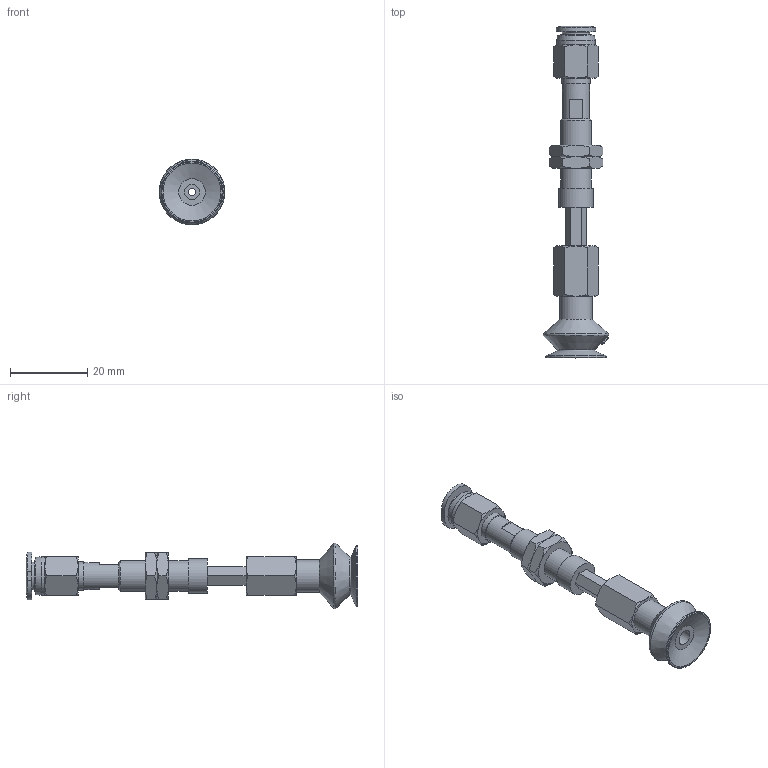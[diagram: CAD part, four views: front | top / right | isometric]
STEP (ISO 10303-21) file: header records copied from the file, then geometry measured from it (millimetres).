
FILE_DESCRIPTION(('STEP AP203'),'1');
FILE_NAME('-O.stp','2025-08-27T00:48:10',(' '),(' '),'Spatial InterOp 3D',' ',' ');
FILE_SCHEMA(('CONFIG_CONTROL_DESIGN'));
Length unit declared in the file: millimetre
Products named in the file (9): BNABPBTH-15A-10-※-O; ADAPTER; NAPATH-10A-10--M; Nut-15A-S-PB; NAPBTH-15A-10-FBODY; BPBG-15A-※; __27; BPBG-15A; PC-C_06-M5
Assembly tree (9 placements, depth 3):
  BNABPBTH-15A-10-※-O
    ADAPTER
    NAPATH-10A-10--M
    Nut-15A-S-PB  x2
    NAPBTH-15A-10-FBODY
    BPBG-15A-※
      __27
      BPBG-15A
    PC-C_06-M5
Bounding box: 16.99 x 85.98 x 16.99 mm (x, y, z)
Volume: 4591.9 mm3; surface area: 5990.8 mm2
Topology: 7 solids, 10 shells, 189 faces, 404 edges, 248 vertices
Faces by surface type: plane 71, cone 66, cylinder 24, torus 13, bspline 12, revolution 3
Full cylindrical faces by diameter (mm): 2 x2, 4 x5, 4.134 x1, 5 x1, 6 x2, 7 x2, 7.188 x2, 7.4 x1, 8 x1, 8.2 x1, 8.5 x1, 9 x1, 10 x1, 16 x1
Entity records: 6109 total; most frequent: CARTESIAN_POINT 2494, DIRECTION 638, ORIENTED_EDGE 582, EDGE_CURVE 293, AXIS2_PLACEMENT_3D 276, EDGE_LOOP 241, VERTEX_POINT 206, FACE_OUTER_BOUND 140
